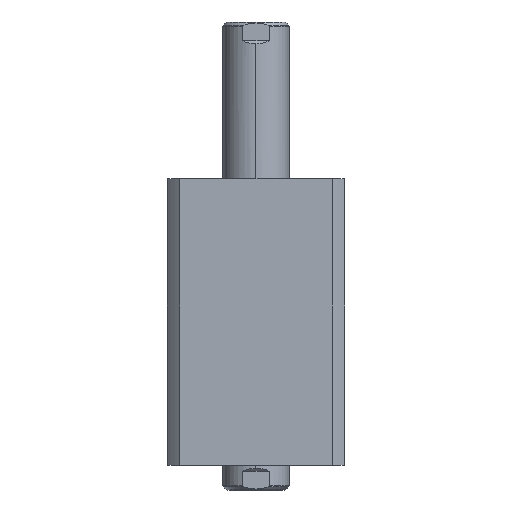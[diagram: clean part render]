
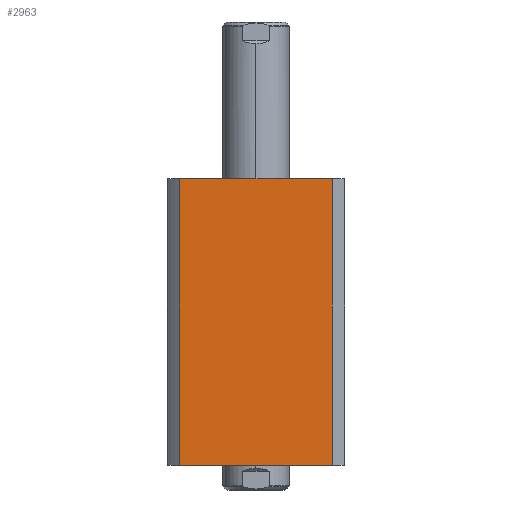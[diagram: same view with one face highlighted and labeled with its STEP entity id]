
A CAD part, left-side view. The second image highlights one B-rep face of the part: STEP entity #2963.
In plain terms, the highlighted planar face has unit normal (-1, 0, 0).
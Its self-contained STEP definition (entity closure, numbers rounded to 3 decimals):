
#156 = LINE ( 'NONE', #3496, #3499 ) ;
#759 = PLANE ( 'NONE',  #7881 ) ;
#1086 = VECTOR ( 'NONE', #5826, 1000. ) ;
#2324 = DIRECTION ( 'NONE',  ( 1., 0., 0. ) ) ;
#2962 = DIRECTION ( 'NONE',  ( 0., 0., 1. ) ) ;
#2963 = ADVANCED_FACE ( 'NONE', ( #12134 ), #759, .F. ) ;
#3496 = CARTESIAN_POINT ( 'NONE',  ( -47., 47., 152. ) ) ;
#3499 = VECTOR ( 'NONE', #5000, 1000. ) ;
#3705 = CARTESIAN_POINT ( 'NONE',  ( -47., 47., 152. ) ) ;
#4017 = CARTESIAN_POINT ( 'NONE',  ( -47., 40.435, 152. ) ) ;
#4036 = VERTEX_POINT ( 'NONE', #15507 ) ;
#4865 = LINE ( 'NONE', #17162, #1086 ) ;
#5000 = DIRECTION ( 'NONE',  ( 0., -1., 0. ) ) ;
#5471 = EDGE_LOOP ( 'NONE', ( #16346, #14701, #9280, #5892 ) ) ;
#5826 = DIRECTION ( 'NONE',  ( 0., 0., -1. ) ) ;
#5892 = ORIENTED_EDGE ( 'NONE', *, *, #9084, .T. ) ;
#7881 = AXIS2_PLACEMENT_3D ( 'NONE', #3705, #2324, #12256 ) ;
#9084 = EDGE_CURVE ( 'NONE', #11633, #11361, #15779, .T. ) ;
#9111 = EDGE_CURVE ( 'NONE', #4036, #11361, #4865, .T. ) ;
#9280 = ORIENTED_EDGE ( 'NONE', *, *, #16054, .F. ) ;
#10200 = VECTOR ( 'NONE', #2962, 1000. ) ;
#10646 = LINE ( 'NONE', #11509, #10200 ) ;
#10659 = EDGE_CURVE ( 'NONE', #10878, #4036, #156, .T. ) ;
#10878 = VERTEX_POINT ( 'NONE', #4017 ) ;
#11361 = VERTEX_POINT ( 'NONE', #17532 ) ;
#11509 = CARTESIAN_POINT ( 'NONE',  ( -47., 40.435, 300. ) ) ;
#11633 = VERTEX_POINT ( 'NONE', #15171 ) ;
#11948 = VECTOR ( 'NONE', #14340, 1000. ) ;
#12134 = FACE_OUTER_BOUND ( 'NONE', #5471, .T. ) ;
#12256 = DIRECTION ( 'NONE',  ( 0., 1., 0. ) ) ;
#12909 = CARTESIAN_POINT ( 'NONE',  ( -47., 47., 0. ) ) ;
#14340 = DIRECTION ( 'NONE',  ( 0., -1., 0. ) ) ;
#14701 = ORIENTED_EDGE ( 'NONE', *, *, #10659, .F. ) ;
#15171 = CARTESIAN_POINT ( 'NONE',  ( -47., 40.435, 0. ) ) ;
#15507 = CARTESIAN_POINT ( 'NONE',  ( -47., -40.435, 152. ) ) ;
#15779 = LINE ( 'NONE', #12909, #11948 ) ;
#16054 = EDGE_CURVE ( 'NONE', #11633, #10878, #10646, .T. ) ;
#16346 = ORIENTED_EDGE ( 'NONE', *, *, #9111, .F. ) ;
#17162 = CARTESIAN_POINT ( 'NONE',  ( -47., -40.435, 300. ) ) ;
#17532 = CARTESIAN_POINT ( 'NONE',  ( -47., -40.435, 0. ) ) ;
